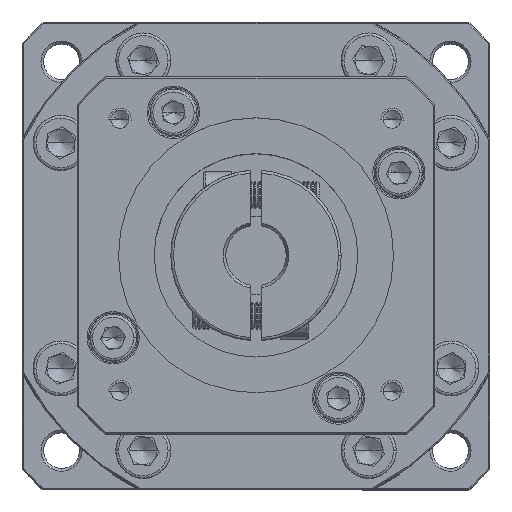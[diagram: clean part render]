
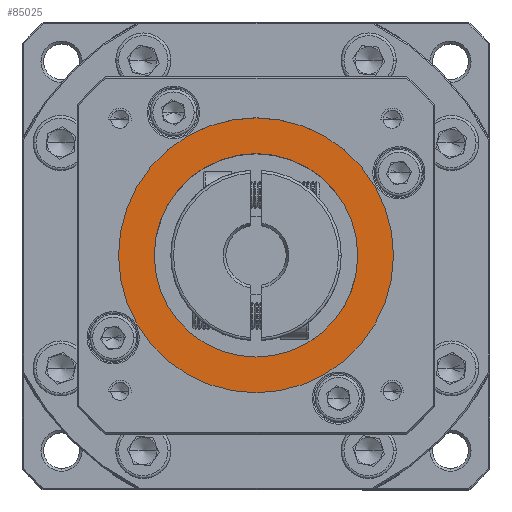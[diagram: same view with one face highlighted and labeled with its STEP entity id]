
A CAD part, top view. The second image highlights one B-rep face of the part: STEP entity #85025.
In plain terms, the highlighted planar face has unit normal (0, 0, 1).
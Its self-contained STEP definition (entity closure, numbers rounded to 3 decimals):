
#1731 = DIRECTION ( 'NONE',  ( 0., 0., -1. ) ) ;
#2791 = ORIENTED_EDGE ( 'NONE', *, *, #70420, .T. ) ;
#4689 = CIRCLE ( 'NONE', #52500, 18.5 ) ;
#15040 = AXIS2_PLACEMENT_3D ( 'NONE', #26360, #88805, #35315 ) ;
#17543 = CARTESIAN_POINT ( 'NONE',  ( -10.286, -27.63, 58.548 ) ) ;
#26360 = CARTESIAN_POINT ( 'NONE',  ( 14.714, -27.63, 58.548 ) ) ;
#31084 = CARTESIAN_POINT ( 'NONE',  ( -3.786, -27.63, 58.548 ) ) ;
#33534 = AXIS2_PLACEMENT_3D ( 'NONE', #36407, #98832, #45398 ) ;
#35315 = DIRECTION ( 'NONE',  ( 1., 0., 0. ) ) ;
#35584 = DIRECTION ( 'NONE',  ( 0., 0., 1. ) ) ;
#35907 = VERTEX_POINT ( 'NONE', #31084 ) ;
#36407 = CARTESIAN_POINT ( 'NONE',  ( 14.714, -27.63, 58.548 ) ) ;
#37483 = EDGE_LOOP ( 'NONE', ( #103245, #68449 ) ) ;
#37679 = VERTEX_POINT ( 'NONE', #17543 ) ;
#41937 = CARTESIAN_POINT ( 'NONE',  ( 14.714, -27.63, 58.548 ) ) ;
#44307 = CARTESIAN_POINT ( 'NONE',  ( 39.714, -27.63, 58.548 ) ) ;
#45398 = DIRECTION ( 'NONE',  ( 1., 0., 0. ) ) ;
#50924 = DIRECTION ( 'NONE',  ( 1., 0., 0. ) ) ;
#51721 = FACE_OUTER_BOUND ( 'NONE', #55017, .T. ) ;
#51888 = ORIENTED_EDGE ( 'NONE', *, *, #99524, .T. ) ;
#52500 = AXIS2_PLACEMENT_3D ( 'NONE', #55141, #1731, #64210 ) ;
#55017 = EDGE_LOOP ( 'NONE', ( #2791, #51888 ) ) ;
#55141 = CARTESIAN_POINT ( 'NONE',  ( 14.714, -27.63, 58.548 ) ) ;
#56456 = CIRCLE ( 'NONE', #33534, 25. ) ;
#60713 = EDGE_CURVE ( 'NONE', #35907, #105705, #4689, .T. ) ;
#61184 = VERTEX_POINT ( 'NONE', #44307 ) ;
#63136 = CIRCLE ( 'NONE', #67922, 18.5 ) ;
#64210 = DIRECTION ( 'NONE',  ( 1., 0., 0. ) ) ;
#67922 = AXIS2_PLACEMENT_3D ( 'NONE', #41937, #104341, #50924 ) ;
#68449 = ORIENTED_EDGE ( 'NONE', *, *, #60713, .T. ) ;
#70420 = EDGE_CURVE ( 'NONE', #61184, #37679, #83912, .T. ) ;
#72627 = FACE_BOUND ( 'NONE', #37483, .T. ) ;
#83912 = CIRCLE ( 'NONE', #105307, 25. ) ;
#85025 = ADVANCED_FACE ( 'NONE', ( #51721, #72627 ), #106374, .T. ) ;
#88805 = DIRECTION ( 'NONE',  ( 0., 0., 1. ) ) ;
#89072 = CARTESIAN_POINT ( 'NONE',  ( 14.714, -27.63, 58.548 ) ) ;
#98042 = DIRECTION ( 'NONE',  ( 1., 0., 0. ) ) ;
#98832 = DIRECTION ( 'NONE',  ( 0., 0., 1. ) ) ;
#99524 = EDGE_CURVE ( 'NONE', #37679, #61184, #56456, .T. ) ;
#103245 = ORIENTED_EDGE ( 'NONE', *, *, #104866, .T. ) ;
#104341 = DIRECTION ( 'NONE',  ( 0., 0., -1. ) ) ;
#104866 = EDGE_CURVE ( 'NONE', #105705, #35907, #63136, .T. ) ;
#105307 = AXIS2_PLACEMENT_3D ( 'NONE', #89072, #35584, #98042 ) ;
#105705 = VERTEX_POINT ( 'NONE', #108844 ) ;
#106374 = PLANE ( 'NONE',  #15040 ) ;
#108844 = CARTESIAN_POINT ( 'NONE',  ( 33.214, -27.63, 58.548 ) ) ;
